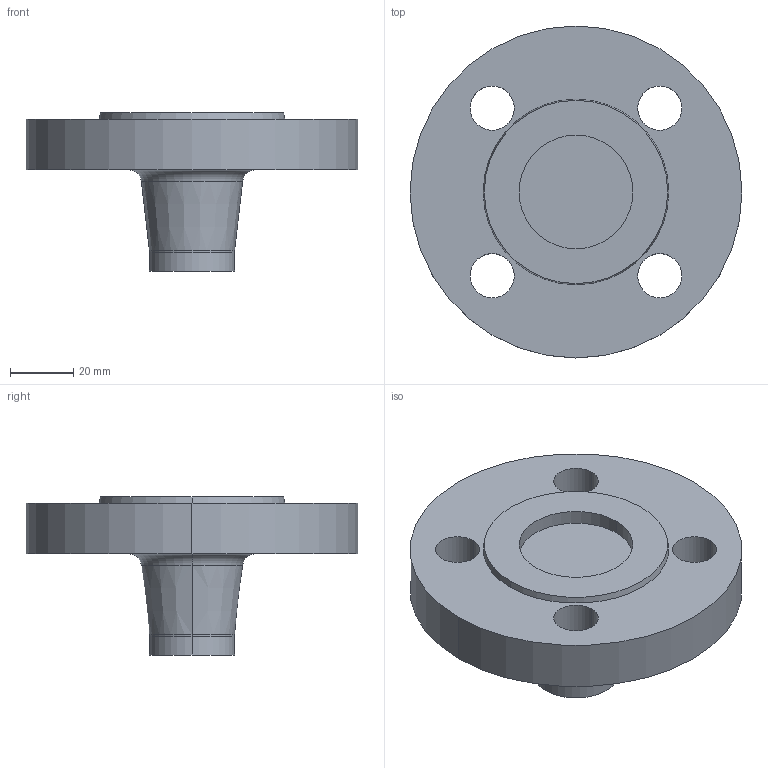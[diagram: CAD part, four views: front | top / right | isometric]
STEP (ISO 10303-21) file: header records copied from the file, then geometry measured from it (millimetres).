
FILE_DESCRIPTION (( 'STEP AP214' ), '1' );
FILE_NAME ('PN40 DN20 Type 21(ii) - Type G Face.STEP', '2018-12-29T16:10:25', ( '' ), ( '' ), 'SwSTEP 2.0', 'SolidWorks 2019', '' );
FILE_SCHEMA (( 'AUTOMOTIVE_DESIGN' ));
Length unit declared in the file: millimetre
Products named in the file (1): PN40 DN20 Type 21(ii) - Type G Face
Bounding box: 105 x 105 x 50 mm (x, y, z)
Volume: 151420.7 mm3; surface area: 27549 mm2
Topology: 1 solids, 1 shells, 27 faces, 60 edges, 38 vertices
Faces by surface type: cylinder 14, plane 5, torus 4, cone 4
Entity records: 818 total; most frequent: DIRECTION 158, CARTESIAN_POINT 126, ORIENTED_EDGE 120, AXIS2_PLACEMENT_3D 70, EDGE_CURVE 60, CIRCLE 42, EDGE_LOOP 38, VERTEX_POINT 38
